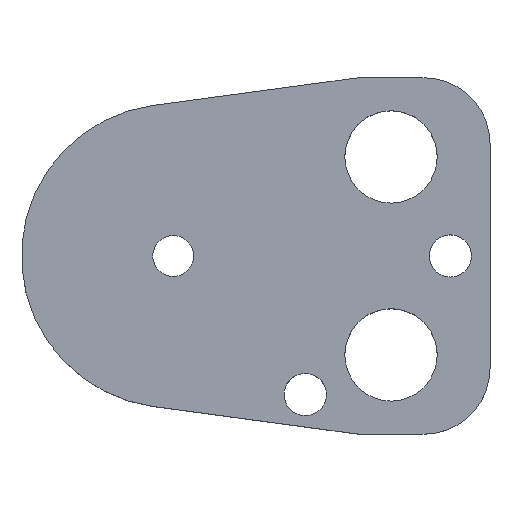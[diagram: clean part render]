
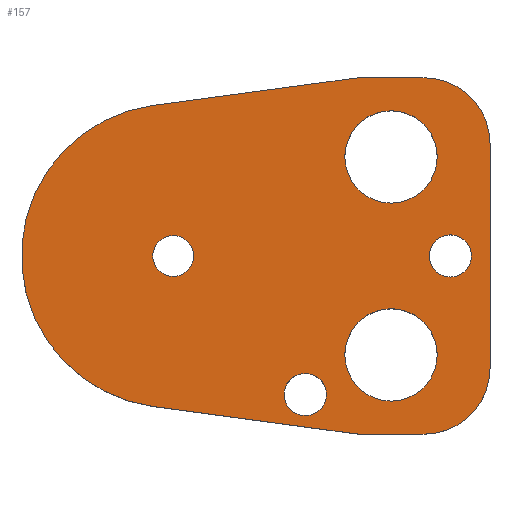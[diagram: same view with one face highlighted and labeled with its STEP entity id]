
A CAD part, top view. The second image highlights one B-rep face of the part: STEP entity #157.
In plain terms, the highlighted planar face has unit normal (0, 0, 1).
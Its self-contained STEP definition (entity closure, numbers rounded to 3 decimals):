
#103=FACE_BOUND('',#207,.T.);
#104=FACE_BOUND('',#208,.T.);
#105=FACE_BOUND('',#209,.T.);
#106=FACE_BOUND('',#210,.T.);
#107=FACE_BOUND('',#211,.T.);
#108=FACE_BOUND('',#212,.T.);
#122=CIRCLE('',#480,10.);
#124=CIRCLE('',#484,10.);
#127=CIRCLE('',#490,23.);
#138=CIRCLE('',#503,3.2);
#139=CIRCLE('',#504,3.2);
#140=CIRCLE('',#505,7.);
#141=CIRCLE('',#506,7.);
#142=CIRCLE('',#507,7.);
#143=CIRCLE('',#508,7.);
#144=CIRCLE('',#509,3.2);
#145=CIRCLE('',#510,3.2);
#146=CIRCLE('',#511,3.1);
#147=CIRCLE('',#512,3.1);
#157=ADVANCED_FACE('',(#103,#104,#105,#106,#107,#108),#174,.T.);
#174=PLANE('',#513);
#207=EDGE_LOOP('',(#273,#274,#275,#276,#277,#278,#279,#280));
#208=EDGE_LOOP('',(#281,#282));
#209=EDGE_LOOP('',(#283,#284));
#210=EDGE_LOOP('',(#285,#286));
#211=EDGE_LOOP('',(#287,#288));
#212=EDGE_LOOP('',(#289,#290));
#273=ORIENTED_EDGE('',*,*,#368,.T.);
#274=ORIENTED_EDGE('',*,*,#372,.T.);
#275=ORIENTED_EDGE('',*,*,#375,.T.);
#276=ORIENTED_EDGE('',*,*,#378,.T.);
#277=ORIENTED_EDGE('',*,*,#381,.T.);
#278=ORIENTED_EDGE('',*,*,#384,.T.);
#279=ORIENTED_EDGE('',*,*,#387,.T.);
#280=ORIENTED_EDGE('',*,*,#390,.T.);
#281=ORIENTED_EDGE('',*,*,#401,.T.);
#282=ORIENTED_EDGE('',*,*,#402,.T.);
#283=ORIENTED_EDGE('',*,*,#403,.T.);
#284=ORIENTED_EDGE('',*,*,#404,.T.);
#285=ORIENTED_EDGE('',*,*,#405,.T.);
#286=ORIENTED_EDGE('',*,*,#406,.T.);
#287=ORIENTED_EDGE('',*,*,#407,.T.);
#288=ORIENTED_EDGE('',*,*,#408,.T.);
#289=ORIENTED_EDGE('',*,*,#409,.T.);
#290=ORIENTED_EDGE('',*,*,#410,.T.);
#332=VERTEX_POINT('',#649);
#333=VERTEX_POINT('',#651);
#336=VERTEX_POINT('',#658);
#338=VERTEX_POINT('',#664);
#340=VERTEX_POINT('',#670);
#342=VERTEX_POINT('',#676);
#344=VERTEX_POINT('',#682);
#346=VERTEX_POINT('',#688);
#357=VERTEX_POINT('',#717);
#358=VERTEX_POINT('',#718);
#359=VERTEX_POINT('',#721);
#360=VERTEX_POINT('',#722);
#361=VERTEX_POINT('',#725);
#362=VERTEX_POINT('',#726);
#363=VERTEX_POINT('',#729);
#364=VERTEX_POINT('',#730);
#365=VERTEX_POINT('',#733);
#366=VERTEX_POINT('',#734);
#368=EDGE_CURVE('',#333,#332,#422,.T.);
#372=EDGE_CURVE('',#332,#336,#426,.T.);
#375=EDGE_CURVE('',#336,#338,#122,.T.);
#378=EDGE_CURVE('',#338,#340,#430,.T.);
#381=EDGE_CURVE('',#340,#342,#124,.T.);
#384=EDGE_CURVE('',#342,#344,#434,.T.);
#387=EDGE_CURVE('',#344,#346,#437,.T.);
#390=EDGE_CURVE('',#346,#333,#127,.T.);
#401=EDGE_CURVE('',#357,#358,#138,.T.);
#402=EDGE_CURVE('',#358,#357,#139,.T.);
#403=EDGE_CURVE('',#359,#360,#140,.T.);
#404=EDGE_CURVE('',#360,#359,#141,.T.);
#405=EDGE_CURVE('',#361,#362,#142,.T.);
#406=EDGE_CURVE('',#362,#361,#143,.T.);
#407=EDGE_CURVE('',#363,#364,#144,.T.);
#408=EDGE_CURVE('',#364,#363,#145,.T.);
#409=EDGE_CURVE('',#365,#366,#146,.T.);
#410=EDGE_CURVE('',#366,#365,#147,.T.);
#422=LINE('',#650,#450);
#426=LINE('',#659,#454);
#430=LINE('',#671,#458);
#434=LINE('',#683,#462);
#437=LINE('',#689,#465);
#450=VECTOR('',#527,1.);
#454=VECTOR('',#533,1.);
#458=VECTOR('',#545,1.);
#462=VECTOR('',#557,1.);
#465=VECTOR('',#562,1.);
#480=AXIS2_PLACEMENT_3D('',#665,#538,#539);
#484=AXIS2_PLACEMENT_3D('',#677,#550,#551);
#490=AXIS2_PLACEMENT_3D('',#693,#568,#569);
#503=AXIS2_PLACEMENT_3D('',#716,#594,#595);
#504=AXIS2_PLACEMENT_3D('',#719,#596,#597);
#505=AXIS2_PLACEMENT_3D('',#720,#598,#599);
#506=AXIS2_PLACEMENT_3D('',#723,#600,#601);
#507=AXIS2_PLACEMENT_3D('',#724,#602,#603);
#508=AXIS2_PLACEMENT_3D('',#727,#604,#605);
#509=AXIS2_PLACEMENT_3D('',#728,#606,#607);
#510=AXIS2_PLACEMENT_3D('',#731,#608,#609);
#511=AXIS2_PLACEMENT_3D('',#732,#610,#611);
#512=AXIS2_PLACEMENT_3D('',#735,#612,#613);
#513=AXIS2_PLACEMENT_3D('',#736,#614,#615);
#527=DIRECTION('',(0.991,-0.134,0.));
#533=DIRECTION('',(1.,0.,0.));
#538=DIRECTION('',(0.,0.,1.));
#539=DIRECTION('',(-0.707,0.707,0.));
#545=DIRECTION('',(0.,1.,0.));
#550=DIRECTION('',(0.,0.,1.));
#551=DIRECTION('',(-0.707,-0.707,0.));
#557=DIRECTION('',(-1.,0.,0.));
#562=DIRECTION('',(-0.991,-0.134,0.));
#568=DIRECTION('',(0.,0.,1.));
#569=DIRECTION('',(1.,0.,0.));
#594=DIRECTION('',(0.,0.,-1.));
#595=DIRECTION('',(-1.,0.,0.));
#596=DIRECTION('',(0.,0.,-1.));
#597=DIRECTION('',(1.,0.,0.));
#598=DIRECTION('',(0.,0.,-1.));
#599=DIRECTION('',(-1.,0.,0.));
#600=DIRECTION('',(0.,0.,-1.));
#601=DIRECTION('',(1.,0.,0.));
#602=DIRECTION('',(0.,0.,-1.));
#603=DIRECTION('',(-1.,0.,0.));
#604=DIRECTION('',(0.,0.,-1.));
#605=DIRECTION('',(1.,0.,0.));
#606=DIRECTION('',(0.,0.,-1.));
#607=DIRECTION('',(-1.,0.,0.));
#608=DIRECTION('',(0.,0.,-1.));
#609=DIRECTION('',(1.,0.,0.));
#610=DIRECTION('',(0.,0.,-1.));
#611=DIRECTION('',(-1.,0.,0.));
#612=DIRECTION('',(0.,0.,-1.));
#613=DIRECTION('',(1.,0.,0.));
#614=DIRECTION('',(0.,0.,1.));
#615=DIRECTION('',(0.991,-0.134,0.));
#649=CARTESIAN_POINT('',(28.,-27.,10.));
#650=CARTESIAN_POINT('',(28.,-27.,10.));
#651=CARTESIAN_POINT('',(-3.085,-22.792,10.));
#658=CARTESIAN_POINT('',(38.,-27.,10.));
#659=CARTESIAN_POINT('',(28.,-27.,10.));
#664=CARTESIAN_POINT('',(48.,-17.,10.));
#665=CARTESIAN_POINT('',(38.,-17.,10.));
#670=CARTESIAN_POINT('',(48.,17.,10.));
#671=CARTESIAN_POINT('',(48.,17.,10.));
#676=CARTESIAN_POINT('',(38.,27.,10.));
#677=CARTESIAN_POINT('',(38.,17.,10.));
#682=CARTESIAN_POINT('',(28.,27.,10.));
#683=CARTESIAN_POINT('',(28.,27.,10.));
#688=CARTESIAN_POINT('',(-3.085,22.792,10.));
#689=CARTESIAN_POINT('',(28.,27.,10.));
#693=CARTESIAN_POINT('',(0.,0.,10.));
#716=CARTESIAN_POINT('',(42.,0.,10.));
#717=CARTESIAN_POINT('',(42.,3.2,10.));
#718=CARTESIAN_POINT('',(42.,-3.2,10.));
#719=CARTESIAN_POINT('',(42.,0.,10.));
#720=CARTESIAN_POINT('',(33.,15.,10.));
#721=CARTESIAN_POINT('',(33.,22.,10.));
#722=CARTESIAN_POINT('',(33.,8.,10.));
#723=CARTESIAN_POINT('',(33.,15.,10.));
#724=CARTESIAN_POINT('',(33.,-15.,10.));
#725=CARTESIAN_POINT('',(33.,-8.,10.));
#726=CARTESIAN_POINT('',(33.,-22.,10.));
#727=CARTESIAN_POINT('',(33.,-15.,10.));
#728=CARTESIAN_POINT('',(20.,-21.,10.));
#729=CARTESIAN_POINT('',(20.,-17.8,10.));
#730=CARTESIAN_POINT('',(20.,-24.2,10.));
#731=CARTESIAN_POINT('',(20.,-21.,10.));
#732=CARTESIAN_POINT('',(0.,0.,10.));
#733=CARTESIAN_POINT('',(0.,3.1,10.));
#734=CARTESIAN_POINT('',(0.,-3.1,10.));
#735=CARTESIAN_POINT('',(0.,0.,10.));
#736=CARTESIAN_POINT('',(-3.085,-22.792,10.));
